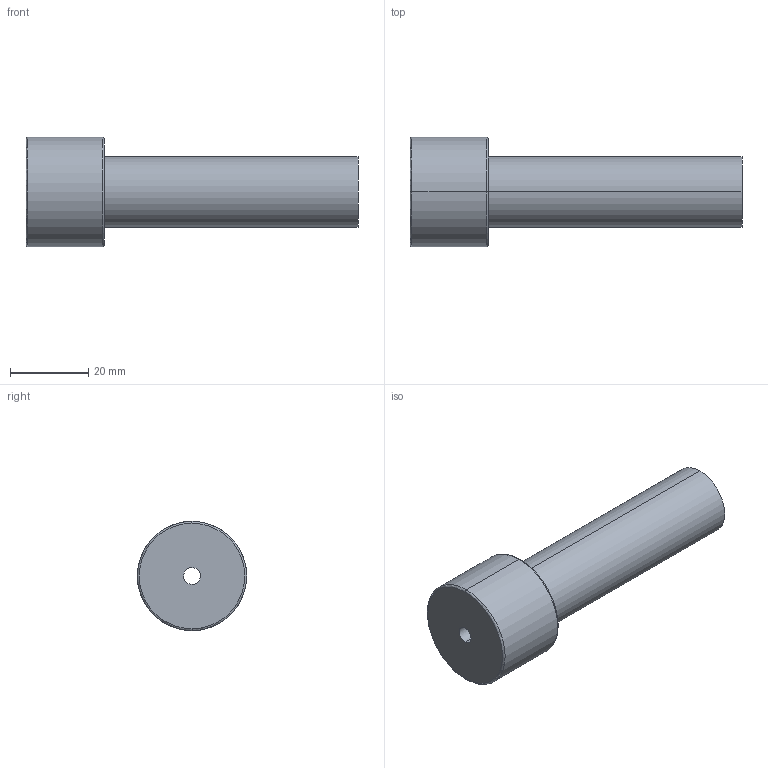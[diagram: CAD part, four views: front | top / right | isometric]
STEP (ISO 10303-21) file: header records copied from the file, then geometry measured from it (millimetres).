
FILE_DESCRIPTION(('CATIA V5 STEP Exchange'),'2;1');
FILE_NAME('C:\Users\Utente\Desktop\IO LAVORO\3D X SITO CF\X SITO\PLASTICA\3D files 367\367F-18X85.stp','2021-03-24T16:15:46+00:00',('none'),('none'),'CATIA Version 5 Release 20 GA (IN-10)','CATIA V5 STEP AP203','none');
FILE_SCHEMA(('CONFIG_CONTROL_DESIGN'));
Length unit declared in the file: millimetre
Products named in the file (1): 367F-18X85
Bounding box: 85 x 28 x 28 mm (x, y, z)
Volume: 25892.9 mm3; surface area: 8297 mm2
Topology: 1 solids, 1 shells, 13 faces, 42 edges, 32 vertices
Faces by surface type: torus 4, cylinder 4, plane 3, cone 2
Entity records: 614 total; most frequent: CARTESIAN_POINT 200, ORIENTED_EDGE 84, DIRECTION 60, AXIS2_PLACEMENT_3D 42, EDGE_CURVE 42, VERTEX_POINT 32, CIRCLE 28, EDGE_LOOP 16
